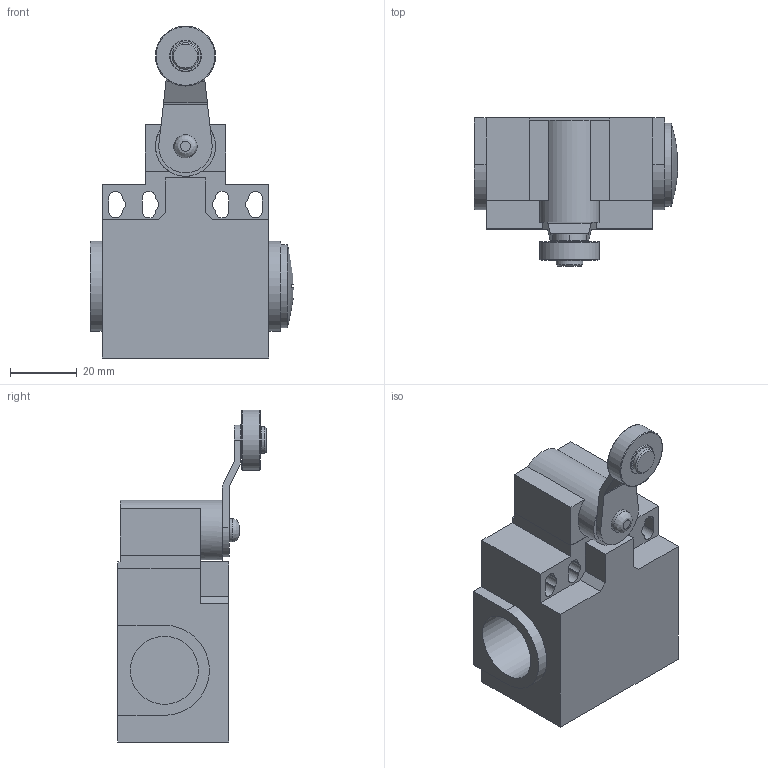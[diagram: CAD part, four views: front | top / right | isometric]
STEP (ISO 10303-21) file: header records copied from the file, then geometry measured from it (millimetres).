
FILE_DESCRIPTION((''),'2;1');
FILE_NAME('D:\Documenti_D\Corrispondenza\Comepi\Catalogo da fare\Modelli Nov 2011\DP\STEP\DP1-T41.iam.step','2011-11-17T12:04:53',(''),(''),'Autodesk Inventor 2010','Autodesk Inventor 2010','');
FILE_SCHEMA(('AUTOMOTIVE_DESIGN { 1 0 10303 214 1 1 1 1 }'));
Length unit declared in the file: millimetre
Products named in the file (7): DP1-T41; T41; T41_1; T41_2; DP1; tappo
Assembly tree (6 placements, depth 3):
  DP1-T41
    T41
      T41_1
      T41_2
    DP1
      DP1
      tappo
Bounding box: 60.92 x 44.55 x 99.57 mm (x, y, z)
Volume: 83060.2 mm3; surface area: 24211.4 mm2
Topology: 4 solids, 4 shells, 109 faces, 271 edges, 178 vertices
Faces by surface type: plane 70, cylinder 29, torus 4, cone 4, bspline 1, sphere 1
Full cylindrical faces by diameter (mm): 6 x2, 7 x1, 8 x1, 18 x2, 20.4 x1, 25 x1
Entity records: 3459 total; most frequent: CARTESIAN_POINT 594, DIRECTION 570, ORIENTED_EDGE 504, EDGE_CURVE 252, AXIS2_PLACEMENT_3D 197, VERTEX_POINT 176, VECTOR 176, LINE 176
